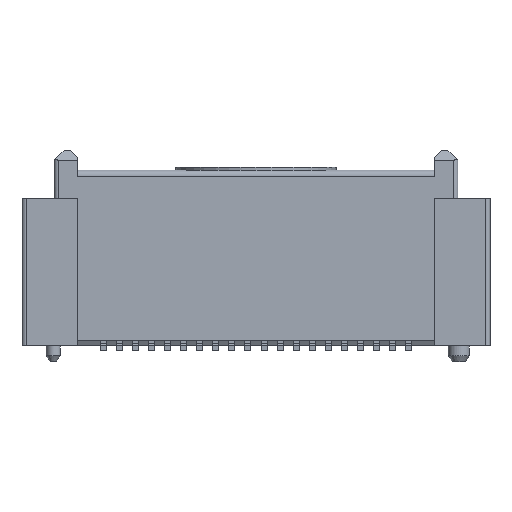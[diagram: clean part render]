
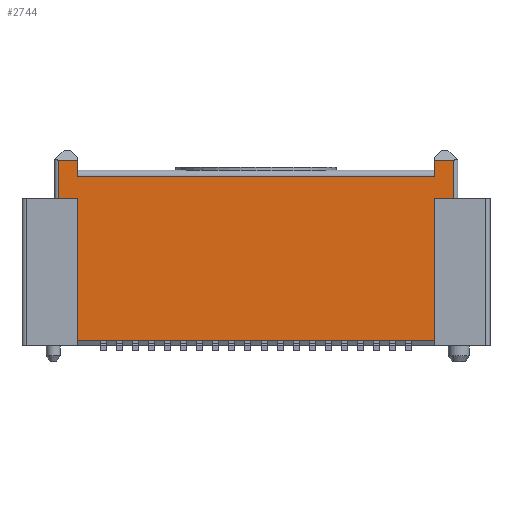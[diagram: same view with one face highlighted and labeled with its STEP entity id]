
A CAD part, front view. The second image highlights one B-rep face of the part: STEP entity #2744.
In plain terms, the highlighted planar face has unit normal (0, -1, 0).
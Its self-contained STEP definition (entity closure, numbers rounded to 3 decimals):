
#2744=ADVANCED_FACE('',(#5038),#3701,.F.);
#3701=PLANE('',#29922);
#5038=FACE_OUTER_BOUND('',#6391,.T.);
#6391=EDGE_LOOP('',(#12522,#12523,#12524,#12525,#12526,#12527,#12528,#12529,
#12530,#12531,#12532,#12533));
#12522=ORIENTED_EDGE('',*,*,#20646,.F.);
#12523=ORIENTED_EDGE('',*,*,#20647,.F.);
#12524=ORIENTED_EDGE('',*,*,#20648,.T.);
#12525=ORIENTED_EDGE('',*,*,#20649,.T.);
#12526=ORIENTED_EDGE('',*,*,#20650,.F.);
#12527=ORIENTED_EDGE('',*,*,#20651,.F.);
#12528=ORIENTED_EDGE('',*,*,#20652,.T.);
#12529=ORIENTED_EDGE('',*,*,#20653,.F.);
#12530=ORIENTED_EDGE('',*,*,#20654,.F.);
#12531=ORIENTED_EDGE('',*,*,#20219,.F.);
#12532=ORIENTED_EDGE('',*,*,#20655,.T.);
#12533=ORIENTED_EDGE('',*,*,#20656,.F.);
#16661=VERTEX_POINT('',#43279);
#16662=VERTEX_POINT('',#43280);
#17048=VERTEX_POINT('',#44155);
#17049=VERTEX_POINT('',#44156);
#17050=VERTEX_POINT('',#44158);
#17051=VERTEX_POINT('',#44160);
#17052=VERTEX_POINT('',#44162);
#17053=VERTEX_POINT('',#44164);
#17054=VERTEX_POINT('',#44166);
#17055=VERTEX_POINT('',#44168);
#17056=VERTEX_POINT('',#44170);
#17057=VERTEX_POINT('',#44173);
#20219=EDGE_CURVE('',#16661,#16662,#23481,.T.);
#20646=EDGE_CURVE('',#17048,#17049,#23903,.T.);
#20647=EDGE_CURVE('',#17050,#17048,#23904,.T.);
#20648=EDGE_CURVE('',#17050,#17051,#23905,.T.);
#20649=EDGE_CURVE('',#17051,#17052,#23906,.T.);
#20650=EDGE_CURVE('',#17053,#17052,#23907,.T.);
#20651=EDGE_CURVE('',#17054,#17053,#23908,.T.);
#20652=EDGE_CURVE('',#17054,#17055,#23909,.T.);
#20653=EDGE_CURVE('',#17056,#17055,#23910,.T.);
#20654=EDGE_CURVE('',#16662,#17056,#23911,.T.);
#20655=EDGE_CURVE('',#16661,#17057,#23912,.T.);
#20656=EDGE_CURVE('',#17049,#17057,#23913,.T.);
#23481=LINE('',#43278,#26705);
#23903=LINE('',#44154,#27127);
#23904=LINE('',#44157,#27128);
#23905=LINE('',#44159,#27129);
#23906=LINE('',#44161,#27130);
#23907=LINE('',#44163,#27131);
#23908=LINE('',#44165,#27132);
#23909=LINE('',#44167,#27133);
#23910=LINE('',#44169,#27134);
#23911=LINE('',#44171,#27135);
#23912=LINE('',#44172,#27136);
#23913=LINE('',#44174,#27137);
#26705=VECTOR('',#35660,1.);
#27127=VECTOR('',#36216,1.);
#27128=VECTOR('',#36217,1.);
#27129=VECTOR('',#36218,1.);
#27130=VECTOR('',#36219,1.);
#27131=VECTOR('',#36220,1.);
#27132=VECTOR('',#36221,1.);
#27133=VECTOR('',#36222,1.);
#27134=VECTOR('',#36223,1.);
#27135=VECTOR('',#36224,1.);
#27136=VECTOR('',#36225,1.);
#27137=VECTOR('',#36226,1.);
#29922=AXIS2_PLACEMENT_3D('',#44175,#36227,#36228);
#35660=DIRECTION('',(-1.,0.,0.));
#36216=DIRECTION('',(0.,0.,-1.));
#36217=DIRECTION('',(-1.,0.,0.));
#36218=DIRECTION('',(0.,0.,1.));
#36219=DIRECTION('',(-1.,0.,0.));
#36220=DIRECTION('',(0.,0.,1.));
#36221=DIRECTION('',(1.,0.,0.));
#36222=DIRECTION('',(0.,0.,1.));
#36223=DIRECTION('',(1.,0.,0.));
#36224=DIRECTION('',(0.,0.,1.));
#36225=DIRECTION('',(0.,0.,-1.));
#36226=DIRECTION('',(-1.,0.,0.));
#36227=DIRECTION('',(0.,1.,0.));
#36228=DIRECTION('',(0.,0.,-1.));
#43278=CARTESIAN_POINT('',(0.,-2.175,10.3));
#43279=CARTESIAN_POINT('',(-8.9,-2.175,10.3));
#43280=CARTESIAN_POINT('',(-9.85,-2.175,10.3));
#44154=CARTESIAN_POINT('',(8.9,-2.175,6.65));
#44155=CARTESIAN_POINT('',(8.9,-2.175,10.3));
#44156=CARTESIAN_POINT('',(8.9,-2.175,3.2));
#44157=CARTESIAN_POINT('',(0.,-2.175,10.3));
#44158=CARTESIAN_POINT('',(9.85,-2.175,10.3));
#44159=CARTESIAN_POINT('',(9.85,-2.175,9.85));
#44160=CARTESIAN_POINT('',(9.85,-2.175,12.2));
#44161=CARTESIAN_POINT('',(9.25,-2.175,12.2));
#44162=CARTESIAN_POINT('',(8.9,-2.175,12.2));
#44163=CARTESIAN_POINT('',(8.9,-2.175,6.625));
#44164=CARTESIAN_POINT('',(8.9,-2.175,11.4));
#44165=CARTESIAN_POINT('',(0.,-2.175,11.4));
#44166=CARTESIAN_POINT('',(-8.9,-2.175,11.4));
#44167=CARTESIAN_POINT('',(-8.9,-2.175,6.625));
#44168=CARTESIAN_POINT('',(-8.9,-2.175,12.2));
#44169=CARTESIAN_POINT('',(-9.25,-2.175,12.2));
#44170=CARTESIAN_POINT('',(-9.85,-2.175,12.2));
#44171=CARTESIAN_POINT('',(-9.85,-2.175,9.85));
#44172=CARTESIAN_POINT('',(-8.9,-2.175,6.65));
#44173=CARTESIAN_POINT('',(-8.9,-2.175,3.2));
#44174=CARTESIAN_POINT('',(0.,-2.175,3.2));
#44175=CARTESIAN_POINT('',(0.,-2.175,6.65));
